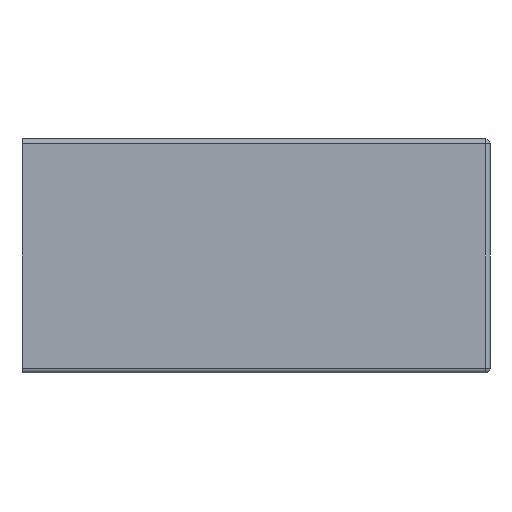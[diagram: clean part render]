
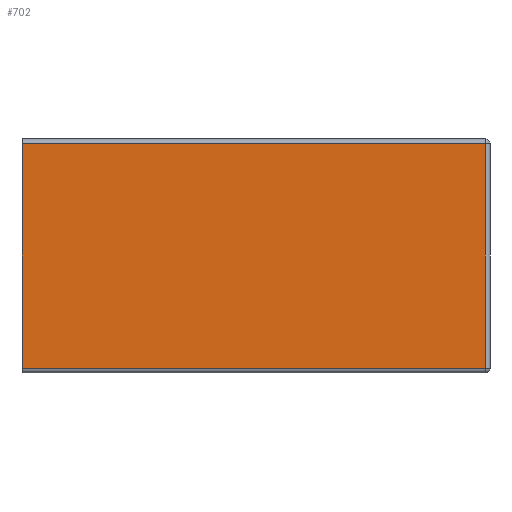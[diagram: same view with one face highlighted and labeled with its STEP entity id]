
A CAD part, front view. The second image highlights one B-rep face of the part: STEP entity #702.
In plain terms, the highlighted planar face has unit normal (0, -1, 0).
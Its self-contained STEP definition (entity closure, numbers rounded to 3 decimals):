
#702=ADVANCED_FACE('',(#2402),#2404,.T.);
#2402=FACE_BOUND('',#2403,.T.);
#2403=EDGE_LOOP('',(#3765,#3766,#3767,#3768));
#2404=PLANE('',#2405);
#2405=AXIS2_PLACEMENT_3D('',#2406,#2407,#2408);
#2406=CARTESIAN_POINT('',(0.,-14.5,20.));
#2407=DIRECTION('',(0.,-1.,0.));
#2408=DIRECTION('',(0.,0.,-1.));
#3765=ORIENTED_EDGE('',*,*,#4261,.F.);
#3766=ORIENTED_EDGE('',*,*,#4246,.T.);
#3767=ORIENTED_EDGE('',*,*,#4263,.T.);
#3768=ORIENTED_EDGE('',*,*,#4265,.F.);
#4246=EDGE_CURVE('',#4594,#4599,#4601,.T.);
#4261=EDGE_CURVE('',#4594,#4620,#4621,.T.);
#4263=EDGE_CURVE('',#4599,#4623,#4624,.T.);
#4265=EDGE_CURVE('',#4620,#4623,#4626,.T.);
#4594=VERTEX_POINT('',#6017);
#4599=VERTEX_POINT('',#6029);
#4601=LINE('',#6034,#6035);
#4620=VERTEX_POINT('',#6088);
#4621=LINE('',#6089,#6090);
#4623=VERTEX_POINT('',#6096);
#4624=LINE('',#6097,#6098);
#4626=LINE('',#6104,#6105);
#6017=CARTESIAN_POINT('',(0.,-14.5,19.2));
#6029=CARTESIAN_POINT('',(0.,-14.5,-19.2));
#6034=CARTESIAN_POINT('',(0.,-14.5,19.2));
#6035=VECTOR('',#6036,1.);
#6036=DIRECTION('',(0.,0.,-1.));
#6088=CARTESIAN_POINT('',(79.2,-14.5,19.2));
#6089=CARTESIAN_POINT('',(0.,-14.5,19.2));
#6090=VECTOR('',#6091,1.);
#6091=DIRECTION('',(1.,0.,0.));
#6096=CARTESIAN_POINT('',(79.2,-14.5,-19.2));
#6097=CARTESIAN_POINT('',(0.,-14.5,-19.2));
#6098=VECTOR('',#6099,1.);
#6099=DIRECTION('',(1.,0.,0.));
#6104=CARTESIAN_POINT('',(79.2,-14.5,19.2));
#6105=VECTOR('',#6106,1.);
#6106=DIRECTION('',(0.,0.,-1.));
